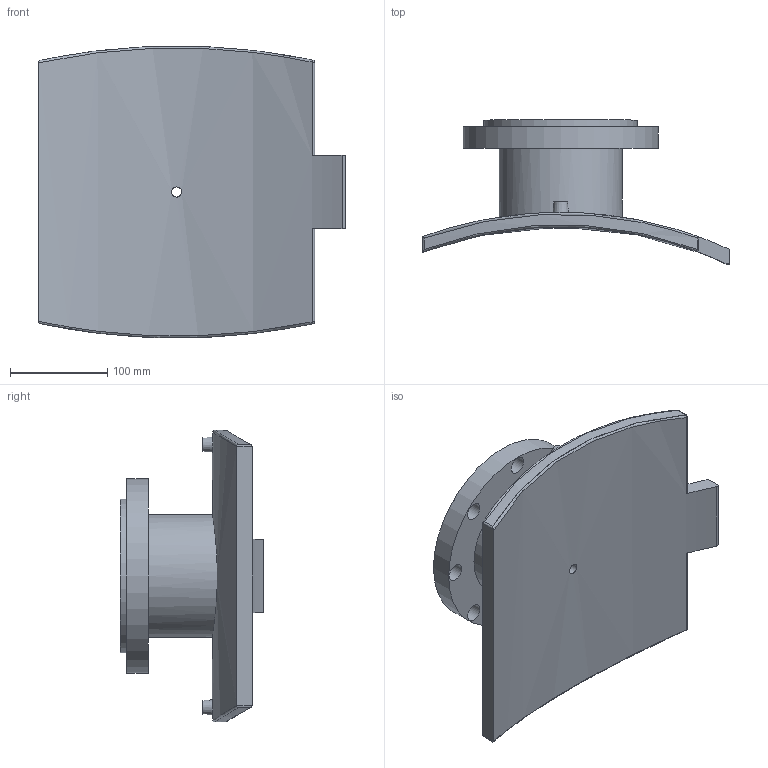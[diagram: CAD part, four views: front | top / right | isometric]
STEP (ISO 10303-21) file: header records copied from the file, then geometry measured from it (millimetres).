
FILE_DESCRIPTION(/* description */ ('PLASSON FLANGED BRANCH SADDLE 450-800X100'),/* implementation_level */ '2;1');
FILE_NAME(/* name */ 'C:\Dropbox\KIMPROJECTS-Inventor 2019\99-16-3568-Processing\ElectroFusion Fittings\495904_495903\stp\495904710100T.stp',/* time_stamp */ '2024-04-03T21:00:33+02:00',/* author */ ('KIM'),/* organization */ (''),/* preprocessor_version */ 'ST-DEVELOPER v17.2',/* originating_system */ 'Autodesk Inventor 2019',/* authorisation */ '');
FILE_SCHEMA (('AUTOMOTIVE_DESIGN { 1 0 10303 214 3 1 1 }'));
Length unit declared in the file: millimetre
Products named in the file (1): 495904710100T
Bounding box: 315 x 147.89 x 299.55 mm (x, y, z)
Volume: 2180138 mm3; surface area: 316982.6 mm2
Topology: 1 solids, 1 shells, 58 faces, 151 edges, 118 vertices
Faces by surface type: cylinder 31, plane 17, sphere 4, bspline 4, cone 2
Full cylindrical faces by diameter (mm): 4 x2, 10 x2, 10.4 x1, 16 x1, 18 x8, 100 x1, 126.4 x1, 158 x1, 200 x1
Entity records: 2350 total; most frequent: CARTESIAN_POINT 854, DIRECTION 297, ORIENTED_EDGE 274, EDGE_CURVE 137, AXIS2_PLACEMENT_3D 125, VERTEX_POINT 92, EDGE_LOOP 87, CIRCLE 70
